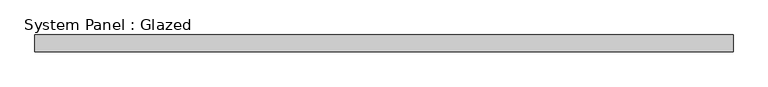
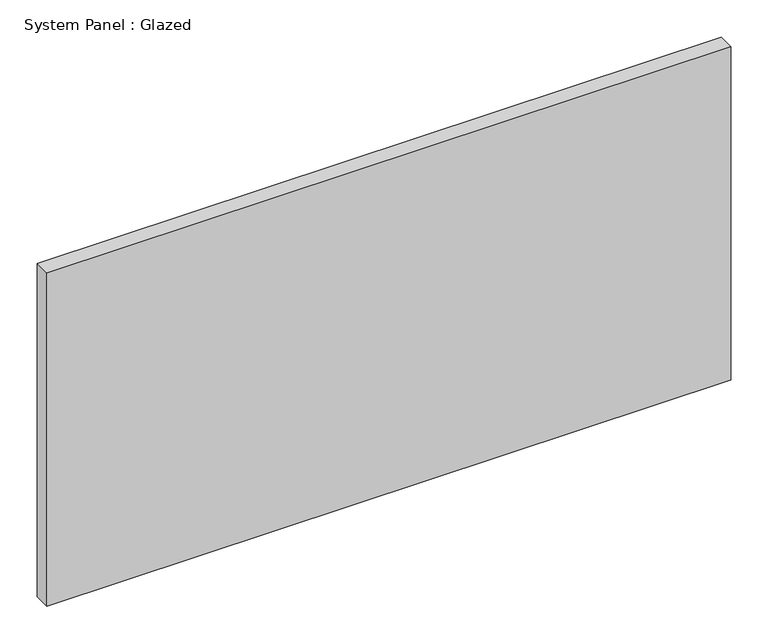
"""IFC4 building model written with IfcOpenShell, lengths in millimetres: plate geometry, System Panel : Glazed."""

from ifc_helpers import new_model, si_unit, origin, origin_with_axes, place, context, project, spatial, polyline, outline, extrude, source, transform, mapped, element, save


def system_panel_glazed_a1942897(model_context):
    return source(origin(), model_context, "Body", "SweptSolid", [
        extrude(outline(polyline([(529.544643, 19.05), (-529.544643, 19.05), (-529.544643, 44.45), (529.544643, 44.45), (529.544643, 19.05)])), origin_with_axes(), (0.0, 0.0, 1.0), 546.1),
    ])


if __name__ == "__main__":
    model = new_model("IFC4")
    model_context = context("Model", 3, world=origin())
    ifc_project = project(units=[si_unit("LENGTHUNIT", "METRE", prefix="MILLI")], contexts=[model_context])
    site = spatial("IfcSite", under=ifc_project)
    building = spatial("IfcBuilding", under=site)
    placement = place(None, origin())
    system_panel_glazed_shape = system_panel_glazed_a1942897(model_context)
    element("IfcPlate", 1, ObjectType="System Panel : Glazed", at=placement, inside=building, context=model_context, shape_type="MappedRepresentation", body=[
        mapped(system_panel_glazed_shape, transform((0.0, 0.0, 0.0), x_axis=(1.0, 0.0, 0.0), y_axis=(0.0, 1.0, 0.0), z_axis=(0.0, 0.0, 1.0))),
    ])
    save(model, "model.ifc")
